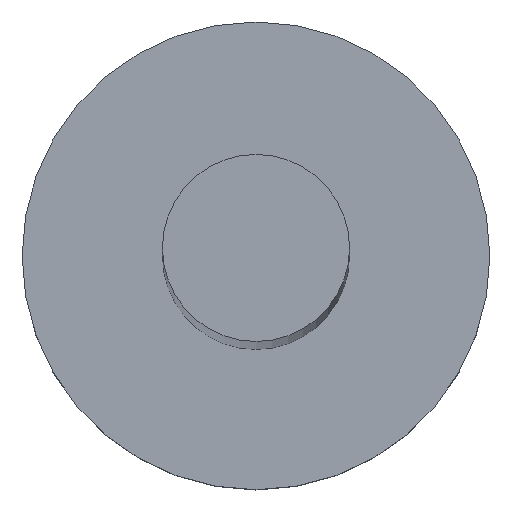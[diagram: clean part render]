
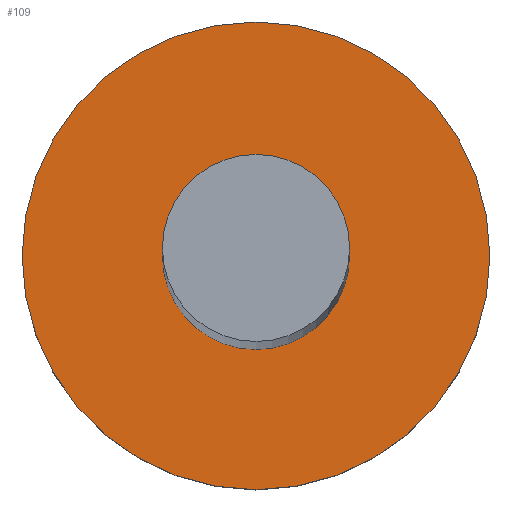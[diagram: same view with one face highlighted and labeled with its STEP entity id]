
A CAD part, top view. The second image highlights one B-rep face of the part: STEP entity #109.
In plain terms, the highlighted planar face has unit normal (0, 0, 1).
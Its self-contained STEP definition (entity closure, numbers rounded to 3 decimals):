
#43 = CYLINDRICAL_SURFACE('',#44,20.);
#44 = AXIS2_PLACEMENT_3D('',#45,#46,#47);
#45 = CARTESIAN_POINT('',(0.,0.,-700.));
#46 = DIRECTION('',(-0.,-0.,-1.));
#47 = DIRECTION('',(1.,0.,0.));
#59 = VERTEX_POINT('',#60);
#60 = CARTESIAN_POINT('',(20.,0.,-688.));
#81 = EDGE_CURVE('',#59,#59,#82,.T.);
#82 = SURFACE_CURVE('',#83,(#88,#95),.PCURVE_S1.);
#83 = CIRCLE('',#84,20.);
#84 = AXIS2_PLACEMENT_3D('',#85,#86,#87);
#85 = CARTESIAN_POINT('',(0.,0.,-688.));
#86 = DIRECTION('',(0.,0.,1.));
#87 = DIRECTION('',(1.,0.,0.));
#88 = PCURVE('',#43,#89);
#89 = DEFINITIONAL_REPRESENTATION('',(#90),#94);
#90 = LINE('',#91,#92);
#91 = CARTESIAN_POINT('',(-0.,-12.));
#92 = VECTOR('',#93,1.);
#93 = DIRECTION('',(-1.,0.));
#94 = ( GEOMETRIC_REPRESENTATION_CONTEXT(2) 
PARAMETRIC_REPRESENTATION_CONTEXT() REPRESENTATION_CONTEXT('2D SPACE',''
  ) );
#95 = PCURVE('',#96,#101);
#96 = PLANE('',#97);
#97 = AXIS2_PLACEMENT_3D('',#98,#99,#100);
#98 = CARTESIAN_POINT('',(0.,0.,-688.)
  );
#99 = DIRECTION('',(0.,0.,1.));
#100 = DIRECTION('',(1.,0.,-0.));
#101 = DEFINITIONAL_REPRESENTATION('',(#102),#106);
#102 = CIRCLE('',#103,20.);
#103 = AXIS2_PLACEMENT_2D('',#104,#105);
#104 = CARTESIAN_POINT('',(0.,0.));
#105 = DIRECTION('',(1.,0.));
#106 = ( GEOMETRIC_REPRESENTATION_CONTEXT(2) 
PARAMETRIC_REPRESENTATION_CONTEXT() REPRESENTATION_CONTEXT('2D SPACE',''
  ) );
#109 = ADVANCED_FACE('',(#110,#113),#96,.T.);
#110 = FACE_BOUND('',#111,.T.);
#111 = EDGE_LOOP('',(#112));
#112 = ORIENTED_EDGE('',*,*,#81,.T.);
#113 = FACE_BOUND('',#114,.T.);
#114 = EDGE_LOOP('',(#115));
#115 = ORIENTED_EDGE('',*,*,#116,.T.);
#116 = EDGE_CURVE('',#117,#117,#119,.T.);
#117 = VERTEX_POINT('',#118);
#118 = CARTESIAN_POINT('',(8.,0.,-688.));
#119 = SURFACE_CURVE('',#120,(#125,#136),.PCURVE_S1.);
#120 = CIRCLE('',#121,8.);
#121 = AXIS2_PLACEMENT_3D('',#122,#123,#124);
#122 = CARTESIAN_POINT('',(0.,0.,-688.));
#123 = DIRECTION('',(0.,0.,-1.));
#124 = DIRECTION('',(1.,0.,0.));
#125 = PCURVE('',#96,#126);
#126 = DEFINITIONAL_REPRESENTATION('',(#127),#135);
#127 = ( BOUNDED_CURVE() B_SPLINE_CURVE(2,(#128,#129,#130,#131,#132,#133
,#134),.UNSPECIFIED.,.T.,.F.) B_SPLINE_CURVE_WITH_KNOTS((1,2,2,2,2,1),(
    -2.094,0.,2.094,4.189,6.283,
8.378),.UNSPECIFIED.) CURVE() GEOMETRIC_REPRESENTATION_ITEM() 
RATIONAL_B_SPLINE_CURVE((1.,0.5,1.,0.5,1.,0.5,1.)) REPRESENTATION_ITEM(
  '') );
#128 = CARTESIAN_POINT('',(8.,0.));
#129 = CARTESIAN_POINT('',(8.,-13.856));
#130 = CARTESIAN_POINT('',(-4.,-6.928));
#131 = CARTESIAN_POINT('',(-16.,0.));
#132 = CARTESIAN_POINT('',(-4.,6.928));
#133 = CARTESIAN_POINT('',(8.,13.856));
#134 = CARTESIAN_POINT('',(8.,0.));
#135 = ( GEOMETRIC_REPRESENTATION_CONTEXT(2) 
PARAMETRIC_REPRESENTATION_CONTEXT() REPRESENTATION_CONTEXT('2D SPACE',''
  ) );
#136 = PCURVE('',#137,#142);
#137 = CYLINDRICAL_SURFACE('',#138,8.);
#138 = AXIS2_PLACEMENT_3D('',#139,#140,#141);
#139 = CARTESIAN_POINT('',(0.,0.,-700.));
#140 = DIRECTION('',(-0.,-0.,-1.));
#141 = DIRECTION('',(1.,0.,0.));
#142 = DEFINITIONAL_REPRESENTATION('',(#143),#147);
#143 = LINE('',#144,#145);
#144 = CARTESIAN_POINT('',(-6.283,-12.));
#145 = VECTOR('',#146,1.);
#146 = DIRECTION('',(1.,-0.));
#147 = ( GEOMETRIC_REPRESENTATION_CONTEXT(2) 
PARAMETRIC_REPRESENTATION_CONTEXT() REPRESENTATION_CONTEXT('2D SPACE',''
  ) );
